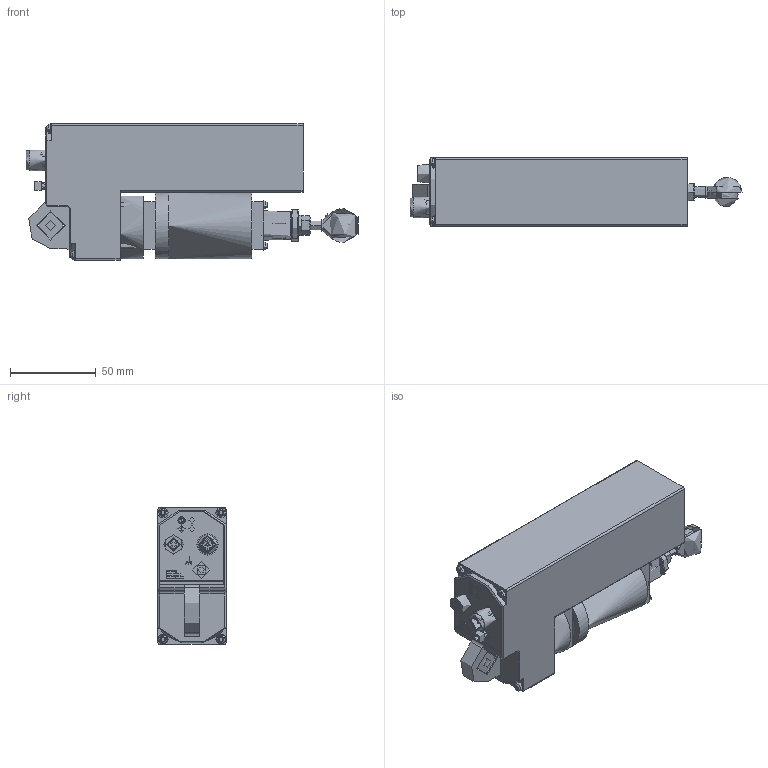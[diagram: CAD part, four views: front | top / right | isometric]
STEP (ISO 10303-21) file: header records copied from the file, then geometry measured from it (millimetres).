
FILE_DESCRIPTION (( 'STEP AP214' ), '1' );
FILE_NAME ('AG_7223+-12.STEP', '2024-05-23T08:30:27', ( '' ), ( '' ), 'SwSTEP 2.0', 'SolidWorks 2022', '' );
FILE_SCHEMA (( 'AUTOMOTIVE_DESIGN' ));
Length unit declared in the file: millimetre
Products named in the file (4): 10657060-SPK-001; 10654245-SPK-001_AG 7223 ±12; 10654244-SPK-001_AG 7223 ±12; AG_7223+-12
Assembly tree (3 placements, depth 2):
  AG_7223+-12
    10654244-SPK-001_AG 7223 ±12
    10654245-SPK-001_AG 7223 ±12
    10657060-SPK-001
Bounding box: 194.16 x 40 x 80 mm (x, y, z)
Topology: 23 solids, 36 shells, 1011 faces, 2486 edges, 1605 vertices
Faces by surface type: plane 438, cylinder 386, cone 98, torus 49, bspline 32, sphere 8
Full cylindrical faces by diameter (mm): 0.87 x4, 1.5 x4, 1.55 x1, 1.948 x4, 2.05 x10, 2.387 x2, 2.5 x4, 2.7 x12, 2.845 x2, 2.934 x2, 3 x4, 3.141 x1, 3.2 x4, 3.3 x1, 3.4 x2, 3.5 x2, 3.676 x1, 4 x3, 4.2 x1, 4.201 x1, 4.917 x1, 5 x1, 5.7 x1, 5.9 x2, 6 x1, 7 x2, 7.4 x1, 7.9 x1, 8.1 x1, 8.85 x1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
Entity records: 51280 total; most frequent: CARTESIAN_POINT 17930, DIRECTION 4888, ORIENTED_EDGE 4346, EDGE_CURVE 2173, AXIS2_PLACEMENT_3D 1960, VERTEX_POINT 1509, EDGE_LOOP 1346, FACE_OUTER_BOUND 1157
